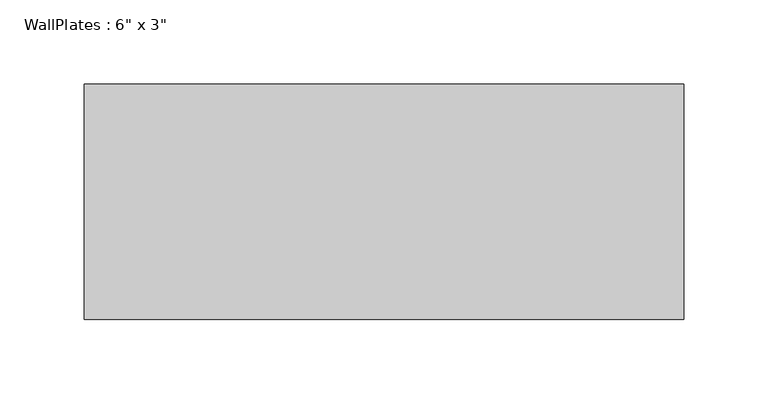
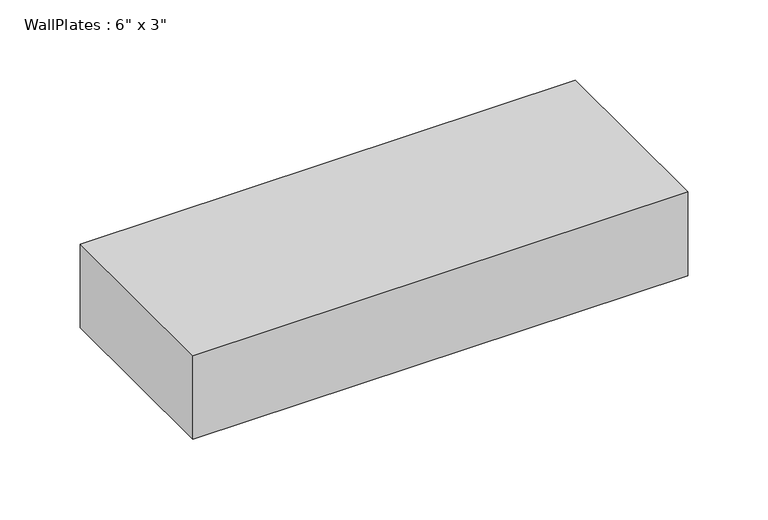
"""IFC4 building model written with IfcOpenShell, lengths in millimetres: beam geometry."""

from ifc_helpers import new_model, si_unit, frame, origin, place, context, project, spatial, polyline, outline, extrude, source, transform, mapped, element, save


def beam_b55a0d5f(model_context):
    return source(origin(), model_context, "Body", "SweptSolid", [
        extrude(outline(polyline([(-177.8, -69.85), (-177.8, 69.85), (177.8, 69.85), (177.8, -69.85), (-177.8, -69.85)])), frame((0.0, 0.0, -31.75), z_axis=(0.0, 0.0, 1.0), x_axis=(1.0, 0.0, 0.0)), (0.0, 0.0, 1.0), 63.5),
    ])


if __name__ == "__main__":
    model = new_model("IFC4")
    model_context = context("Model", 3, world=origin())
    ifc_project = project(units=[si_unit("LENGTHUNIT", "METRE", prefix="MILLI")], contexts=[model_context])
    site = spatial("IfcSite", under=ifc_project)
    building = spatial("IfcBuilding", under=site)
    placement = place(None, origin())
    beam_shape = beam_b55a0d5f(model_context)
    element("IfcBeam", 1, ObjectType="WallPlates : 6\" x 3\"", at=placement, inside=building, context=model_context, shape_type="MappedRepresentation", body=[
        mapped(beam_shape, transform((0.0, 0.0, 0.0), x_axis=(1.0, 0.0, 0.0), y_axis=(0.0, 1.0, 0.0), z_axis=(0.0, 0.0, 1.0))),
    ])
    save(model, "model.ifc")
